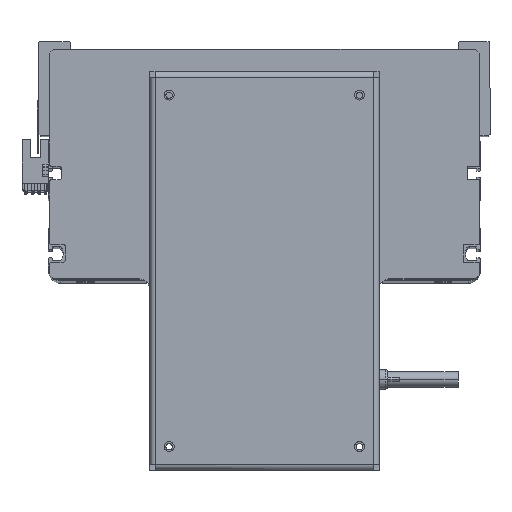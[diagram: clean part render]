
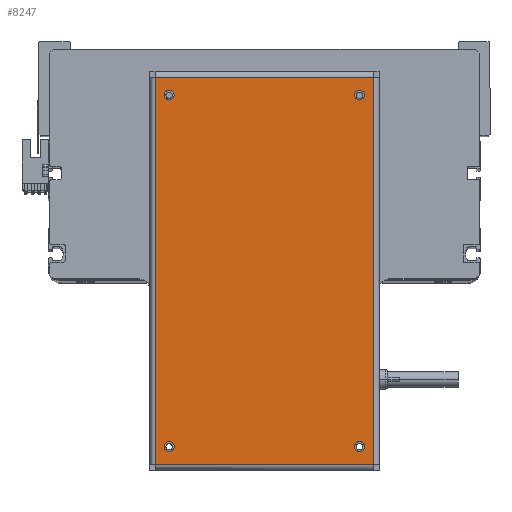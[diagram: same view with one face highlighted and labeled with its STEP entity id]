
A CAD part, top view. The second image highlights one B-rep face of the part: STEP entity #8247.
In plain terms, the highlighted planar face has unit normal (0, 0, 1).
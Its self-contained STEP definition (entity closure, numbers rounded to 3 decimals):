
#800 = ORIENTED_EDGE ( 'NONE', *, *, #26712, .T. ) ;
#834 = CIRCLE ( 'NONE', #8602, 2.5 ) ;
#1207 = DIRECTION ( 'NONE',  ( 0., 0., 1. ) ) ;
#1301 = CARTESIAN_POINT ( 'NONE',  ( -98.65, 55.6, 0. ) ) ;
#1310 = ORIENTED_EDGE ( 'NONE', *, *, #20286, .T. ) ;
#1864 = LINE ( 'NONE', #25338, #38483 ) ;
#2381 = CIRCLE ( 'NONE', #6978, 2.5 ) ;
#2391 = ORIENTED_EDGE ( 'NONE', *, *, #33110, .F. ) ;
#2809 = ORIENTED_EDGE ( 'NONE', *, *, #32720, .F. ) ;
#3061 = DIRECTION ( 'NONE',  ( 1., 0., 0. ) ) ;
#3215 = DIRECTION ( 'NONE',  ( 0., 0., 1. ) ) ;
#3323 = CIRCLE ( 'NONE', #5717, 2.5 ) ;
#3954 = DIRECTION ( 'NONE',  ( 0., 0., 1. ) ) ;
#4009 = DIRECTION ( 'NONE',  ( 0., 0., -1. ) ) ;
#4174 = ORIENTED_EDGE ( 'NONE', *, *, #20078, .F. ) ;
#4379 = LINE ( 'NONE', #32322, #23396 ) ;
#5214 = FACE_OUTER_BOUND ( 'NONE', #17088, .T. ) ;
#5366 = EDGE_LOOP ( 'NONE', ( #29563, #4174 ) ) ;
#5717 = AXIS2_PLACEMENT_3D ( 'NONE', #19191, #7653, #31976 ) ;
#5870 = ORIENTED_EDGE ( 'NONE', *, *, #12779, .T. ) ;
#6809 = CARTESIAN_POINT ( 'NONE',  ( 87.05, -48.5, 0. ) ) ;
#6816 = DIRECTION ( 'NONE',  ( 1., 0., 0. ) ) ;
#6978 = AXIS2_PLACEMENT_3D ( 'NONE', #37159, #19149, #6816 ) ;
#7496 = EDGE_LOOP ( 'NONE', ( #24348, #2391 ) ) ;
#7653 = DIRECTION ( 'NONE',  ( 0., 0., 1. ) ) ;
#7823 = VERTEX_POINT ( 'NONE', #15695 ) ;
#8105 = CARTESIAN_POINT ( 'NONE',  ( -98.65, -55.6, 0. ) ) ;
#8247 = ADVANCED_FACE ( 'NONE', ( #24207, #12286, #13232, #9447, #5214 ), #30340, .F. ) ;
#8602 = AXIS2_PLACEMENT_3D ( 'NONE', #36789, #21688, #13039 ) ;
#9316 = AXIS2_PLACEMENT_3D ( 'NONE', #18868, #4009, #36368 ) ;
#9447 = FACE_BOUND ( 'NONE', #7496, .T. ) ;
#9887 = CARTESIAN_POINT ( 'NONE',  ( 98.65, -55.6, 0. ) ) ;
#10279 = ORIENTED_EDGE ( 'NONE', *, *, #28030, .T. ) ;
#12286 = FACE_BOUND ( 'NONE', #21733, .T. ) ;
#12576 = AXIS2_PLACEMENT_3D ( 'NONE', #39368, #3215, #27117 ) ;
#12779 = EDGE_CURVE ( 'NONE', #22896, #34855, #4379, .T. ) ;
#13039 = DIRECTION ( 'NONE',  ( 1., 0., 0. ) ) ;
#13232 = FACE_BOUND ( 'NONE', #31295, .T. ) ;
#13347 = DIRECTION ( 'NONE',  ( 0., 1., 0. ) ) ;
#13508 = DIRECTION ( 'NONE',  ( 1., 0., 0. ) ) ;
#15695 = CARTESIAN_POINT ( 'NONE',  ( 98.65, 55.6, 0. ) ) ;
#15931 = LINE ( 'NONE', #19393, #16907 ) ;
#16003 = CARTESIAN_POINT ( 'NONE',  ( 87.05, 48.5, 0. ) ) ;
#16907 = VECTOR ( 'NONE', #34741, 1000. ) ;
#16987 = AXIS2_PLACEMENT_3D ( 'NONE', #29463, #23716, #35631 ) ;
#17088 = EDGE_LOOP ( 'NONE', ( #5870, #1310, #800, #10279 ) ) ;
#17758 = LINE ( 'NONE', #23569, #23934 ) ;
#18175 = DIRECTION ( 'NONE',  ( 0., 0., 1. ) ) ;
#18237 = VERTEX_POINT ( 'NONE', #38743 ) ;
#18423 = EDGE_CURVE ( 'NONE', #18237, #39183, #35467, .T. ) ;
#18600 = EDGE_CURVE ( 'NONE', #22250, #19276, #26370, .T. ) ;
#18868 = CARTESIAN_POINT ( 'NONE',  ( 98.75, 58.5, 0. ) ) ;
#18951 = CARTESIAN_POINT ( 'NONE',  ( 89.55, 48.5, 0. ) ) ;
#19149 = DIRECTION ( 'NONE',  ( 0., 0., 1. ) ) ;
#19191 = CARTESIAN_POINT ( 'NONE',  ( -89.55, 48.5, 0. ) ) ;
#19276 = VERTEX_POINT ( 'NONE', #29206 ) ;
#19393 = CARTESIAN_POINT ( 'NONE',  ( 98.75, 55.6, 0. ) ) ;
#19483 = CARTESIAN_POINT ( 'NONE',  ( 92.05, 48.5, 0. ) ) ;
#20078 = EDGE_CURVE ( 'NONE', #24971, #20956, #21591, .T. ) ;
#20286 = EDGE_CURVE ( 'NONE', #34855, #31762, #17758, .T. ) ;
#20956 = VERTEX_POINT ( 'NONE', #36264 ) ;
#21591 = CIRCLE ( 'NONE', #16987, 2.5 ) ;
#21688 = DIRECTION ( 'NONE',  ( 0., 0., 1. ) ) ;
#21733 = EDGE_LOOP ( 'NONE', ( #2809, #38473 ) ) ;
#22250 = VERTEX_POINT ( 'NONE', #6809 ) ;
#22823 = VERTEX_POINT ( 'NONE', #16003 ) ;
#22896 = VERTEX_POINT ( 'NONE', #1301 ) ;
#23025 = AXIS2_PLACEMENT_3D ( 'NONE', #38037, #1207, #13508 ) ;
#23396 = VECTOR ( 'NONE', #26310, 1000. ) ;
#23569 = CARTESIAN_POINT ( 'NONE',  ( -98.75, -55.6, 0. ) ) ;
#23716 = DIRECTION ( 'NONE',  ( 0., 0., 1. ) ) ;
#23807 = EDGE_CURVE ( 'NONE', #24000, #22823, #35207, .T. ) ;
#23934 = VECTOR ( 'NONE', #26351, 1000. ) ;
#24000 = VERTEX_POINT ( 'NONE', #19483 ) ;
#24207 = FACE_BOUND ( 'NONE', #5366, .T. ) ;
#24348 = ORIENTED_EDGE ( 'NONE', *, *, #23807, .F. ) ;
#24971 = VERTEX_POINT ( 'NONE', #36252 ) ;
#25338 = CARTESIAN_POINT ( 'NONE',  ( 98.65, -55.6, 0. ) ) ;
#26310 = DIRECTION ( 'NONE',  ( 0., -1., 0. ) ) ;
#26351 = DIRECTION ( 'NONE',  ( 1., 0., 0. ) ) ;
#26370 = CIRCLE ( 'NONE', #37881, 2.5 ) ;
#26591 = AXIS2_PLACEMENT_3D ( 'NONE', #18951, #3954, #31341 ) ;
#26712 = EDGE_CURVE ( 'NONE', #31762, #7823, #1864, .T. ) ;
#27060 = EDGE_CURVE ( 'NONE', #19276, #22250, #834, .T. ) ;
#27117 = DIRECTION ( 'NONE',  ( 1., 0., 0. ) ) ;
#28030 = EDGE_CURVE ( 'NONE', #7823, #22896, #15931, .T. ) ;
#29148 = CIRCLE ( 'NONE', #12576, 2.5 ) ;
#29206 = CARTESIAN_POINT ( 'NONE',  ( 92.05, -48.5, 0. ) ) ;
#29463 = CARTESIAN_POINT ( 'NONE',  ( -89.55, -48.5, 0. ) ) ;
#29563 = ORIENTED_EDGE ( 'NONE', *, *, #34736, .F. ) ;
#30340 = PLANE ( 'NONE',  #9316 ) ;
#31054 = CARTESIAN_POINT ( 'NONE',  ( -87.05, 48.5, 0. ) ) ;
#31295 = EDGE_LOOP ( 'NONE', ( #35143, #36995 ) ) ;
#31341 = DIRECTION ( 'NONE',  ( 1., 0., 0. ) ) ;
#31762 = VERTEX_POINT ( 'NONE', #9887 ) ;
#31976 = DIRECTION ( 'NONE',  ( 1., 0., 0. ) ) ;
#32322 = CARTESIAN_POINT ( 'NONE',  ( -98.65, 55.6, 0. ) ) ;
#32720 = EDGE_CURVE ( 'NONE', #39183, #18237, #3323, .T. ) ;
#33110 = EDGE_CURVE ( 'NONE', #22823, #24000, #2381, .T. ) ;
#33258 = CARTESIAN_POINT ( 'NONE',  ( 89.55, -48.5, 0. ) ) ;
#34736 = EDGE_CURVE ( 'NONE', #20956, #24971, #29148, .T. ) ;
#34741 = DIRECTION ( 'NONE',  ( -1., 0., 0. ) ) ;
#34855 = VERTEX_POINT ( 'NONE', #8105 ) ;
#35143 = ORIENTED_EDGE ( 'NONE', *, *, #27060, .F. ) ;
#35207 = CIRCLE ( 'NONE', #26591, 2.5 ) ;
#35467 = CIRCLE ( 'NONE', #23025, 2.5 ) ;
#35631 = DIRECTION ( 'NONE',  ( 1., 0., 0. ) ) ;
#36252 = CARTESIAN_POINT ( 'NONE',  ( -92.05, -48.5, 0. ) ) ;
#36264 = CARTESIAN_POINT ( 'NONE',  ( -87.05, -48.5, 0. ) ) ;
#36368 = DIRECTION ( 'NONE',  ( -1., 0., 0. ) ) ;
#36789 = CARTESIAN_POINT ( 'NONE',  ( 89.55, -48.5, 0. ) ) ;
#36995 = ORIENTED_EDGE ( 'NONE', *, *, #18600, .F. ) ;
#37159 = CARTESIAN_POINT ( 'NONE',  ( 89.55, 48.5, 0. ) ) ;
#37881 = AXIS2_PLACEMENT_3D ( 'NONE', #33258, #18175, #3061 ) ;
#38037 = CARTESIAN_POINT ( 'NONE',  ( -89.55, 48.5, 0. ) ) ;
#38473 = ORIENTED_EDGE ( 'NONE', *, *, #18423, .F. ) ;
#38483 = VECTOR ( 'NONE', #13347, 1000. ) ;
#38743 = CARTESIAN_POINT ( 'NONE',  ( -92.05, 48.5, 0. ) ) ;
#39183 = VERTEX_POINT ( 'NONE', #31054 ) ;
#39368 = CARTESIAN_POINT ( 'NONE',  ( -89.55, -48.5, 0. ) ) ;
